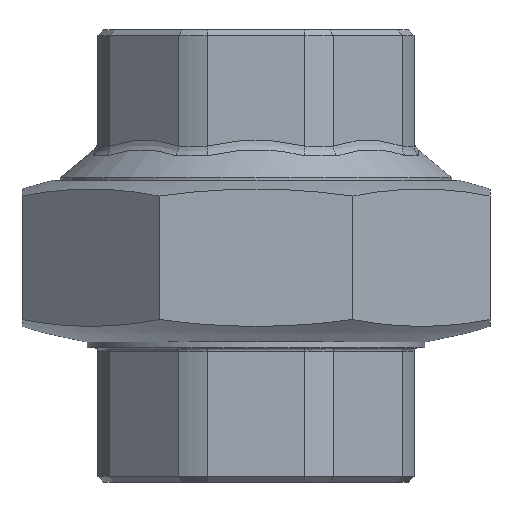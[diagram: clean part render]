
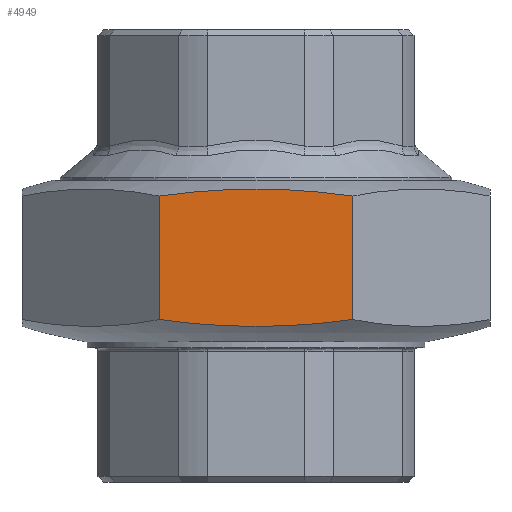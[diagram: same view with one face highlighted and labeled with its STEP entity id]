
A CAD part, left-side view. The second image highlights one B-rep face of the part: STEP entity #4949.
In plain terms, the highlighted planar face has unit normal (-1, 0, 0).
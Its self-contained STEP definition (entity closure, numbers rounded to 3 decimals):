
#4837=CARTESIAN_POINT('',(-28.575,11.836,19.865));
#4838=VERTEX_POINT('',#4837);
#4858=CARTESIAN_POINT('',(-28.575,11.836,34.943));
#4859=VERTEX_POINT('',#4858);
#4860=CARTESIAN_POINT('',(-28.575,11.836,19.865));
#4861=DIRECTION('',(0.0,0.0,1.0));
#4862=VECTOR('',#4861,15.077);
#4863=LINE('',#4860,#4862);
#4864=EDGE_CURVE('',#4838,#4859,#4863,.T.);
#4893=CARTESIAN_POINT('',(-28.575,-11.836,16.482));
#4894=DIRECTION('',(-1.0,0.0,0.0));
#4895=DIRECTION('',(0.0,0.0,1.0));
#4896=AXIS2_PLACEMENT_3D('',#4893,#4894,#4895);
#4897=PLANE('',#4896);
#4898=CARTESIAN_POINT('',(-28.575,-11.836,19.865));
#4899=VERTEX_POINT('',#4898);
#4900=CARTESIAN_POINT('',(-28.575,11.836,19.865));
#4901=CARTESIAN_POINT('',(-28.575,9.822,19.569));
#4902=CARTESIAN_POINT('',(-28.575,7.795,19.358));
#4903=CARTESIAN_POINT('',(-28.575,5.805,19.222));
#4904=CARTESIAN_POINT('',(-28.575,4.306,19.12));
#4905=CARTESIAN_POINT('',(-28.575,2.829,19.06));
#4906=CARTESIAN_POINT('',(-28.575,1.395,19.037));
#4907=CARTESIAN_POINT('',(-28.575,0.935,19.03));
#4908=CARTESIAN_POINT('',(-28.575,0.479,19.026));
#4909=CARTESIAN_POINT('',(-28.575,0.028,19.026));
#4910=CARTESIAN_POINT('',(-28.575,-0.433,19.026));
#4911=CARTESIAN_POINT('',(-28.575,-0.898,19.03));
#4912=CARTESIAN_POINT('',(-28.575,-1.369,19.037));
#4913=CARTESIAN_POINT('',(-28.575,-4.714,19.09));
#4914=CARTESIAN_POINT('',(-28.575,-8.296,19.345));
#4915=CARTESIAN_POINT('',(-28.575,-11.836,19.865));
#4916=B_SPLINE_CURVE_WITH_KNOTS('',3,(#4900,#4901,#4902,#4903,#4904,#4905,#4906,#4907,#4908,#4909,#4910,#4911,#4912,#4913,#4914,#4915),.UNSPECIFIED.,.F.,.U.,(4,3,3,3,3,4),(14.564,15.123,15.544,15.679,15.817,16.799),.UNSPECIFIED.);
#4917=EDGE_CURVE('',#4838,#4899,#4916,.T.);
#4918=ORIENTED_EDGE('',*,*,#4917,.T.);
#4919=CARTESIAN_POINT('',(-28.575,-11.836,34.943));
#4920=VERTEX_POINT('',#4919);
#4921=CARTESIAN_POINT('',(-28.575,-11.836,19.865));
#4922=DIRECTION('',(0.0,0.0,1.0));
#4923=VECTOR('',#4922,15.077);
#4924=LINE('',#4921,#4923);
#4925=EDGE_CURVE('',#4899,#4920,#4924,.T.);
#4926=ORIENTED_EDGE('',*,*,#4925,.T.);
#4927=CARTESIAN_POINT('',(-28.575,-11.836,34.943));
#4928=CARTESIAN_POINT('',(-28.575,-9.822,35.239));
#4929=CARTESIAN_POINT('',(-28.575,-7.795,35.45));
#4930=CARTESIAN_POINT('',(-28.575,-5.805,35.586));
#4931=CARTESIAN_POINT('',(-28.575,-4.306,35.688));
#4932=CARTESIAN_POINT('',(-28.575,-2.829,35.748));
#4933=CARTESIAN_POINT('',(-28.575,-1.395,35.771));
#4934=CARTESIAN_POINT('',(-28.575,-0.935,35.778));
#4935=CARTESIAN_POINT('',(-28.575,-0.479,35.782));
#4936=CARTESIAN_POINT('',(-28.575,-0.028,35.782));
#4937=CARTESIAN_POINT('',(-28.575,0.433,35.782));
#4938=CARTESIAN_POINT('',(-28.575,0.898,35.778));
#4939=CARTESIAN_POINT('',(-28.575,1.369,35.771));
#4940=CARTESIAN_POINT('',(-28.575,4.714,35.718));
#4941=CARTESIAN_POINT('',(-28.575,8.296,35.463));
#4942=CARTESIAN_POINT('',(-28.575,11.836,34.943));
#4943=B_SPLINE_CURVE_WITH_KNOTS('',3,(#4927,#4928,#4929,#4930,#4931,#4932,#4933,#4934,#4935,#4936,#4937,#4938,#4939,#4940,#4941,#4942),.UNSPECIFIED.,.F.,.U.,(4,3,3,3,3,4),(-1.117,-0.559,-0.138,-0.003,0.135,1.117),.UNSPECIFIED.);
#4944=EDGE_CURVE('',#4920,#4859,#4943,.T.);
#4945=ORIENTED_EDGE('',*,*,#4944,.T.);
#4946=ORIENTED_EDGE('',*,*,#4864,.F.);
#4947=EDGE_LOOP('',(#4918,#4926,#4945,#4946));
#4948=FACE_OUTER_BOUND('',#4947,.T.);
#4949=ADVANCED_FACE('',(#4948),#4897,.T.);
